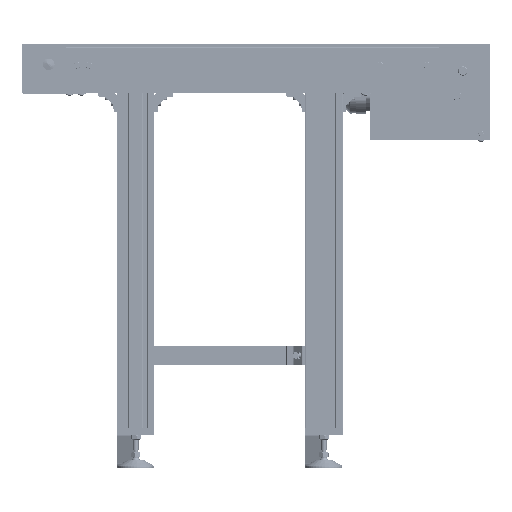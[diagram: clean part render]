
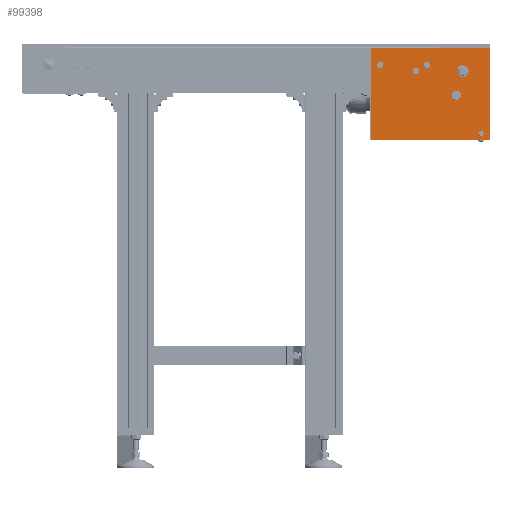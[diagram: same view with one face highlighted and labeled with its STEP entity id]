
A CAD part, front view. The second image highlights one B-rep face of the part: STEP entity #99398.
In plain terms, the highlighted planar face has unit normal (0, -1, 0).
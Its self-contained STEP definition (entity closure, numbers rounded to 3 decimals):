
#2491=FACE_BOUND('',#18529,.T.);
#2492=FACE_BOUND('',#18530,.T.);
#2493=FACE_BOUND('',#18531,.T.);
#2494=FACE_BOUND('',#18532,.T.);
#2495=FACE_BOUND('',#18533,.T.);
#2496=FACE_BOUND('',#18534,.T.);
#7140=CIRCLE('',#107482,10.);
#7170=CIRCLE('',#107549,6.5);
#7206=CIRCLE('',#107638,5.);
#7275=CIRCLE('',#107788,10.);
#7283=CIRCLE('',#107812,6.5);
#7284=CIRCLE('',#107813,6.5);
#12380=FACE_OUTER_BOUND('',#18528,.T.);
#18528=EDGE_LOOP('',(#82101,#82102,#82103,#82104));
#18529=EDGE_LOOP('',(#82105));
#18530=EDGE_LOOP('',(#82106));
#18531=EDGE_LOOP('',(#82107));
#18532=EDGE_LOOP('',(#82108));
#18533=EDGE_LOOP('',(#82109));
#18534=EDGE_LOOP('',(#82110));
#27417=LINE('',#163904,#36121);
#27431=LINE('',#164015,#36135);
#27432=LINE('',#164017,#36136);
#27433=LINE('',#164018,#36137);
#36121=VECTOR('',#132072,255.);
#36135=VECTOR('',#132156,195.);
#36136=VECTOR('',#132157,195.);
#36137=VECTOR('',#132158,255.);
#44500=VERTEX_POINT('',#163067);
#44527=VERTEX_POINT('',#163164);
#44612=VERTEX_POINT('',#163472);
#44745=VERTEX_POINT('',#163901);
#44746=VERTEX_POINT('',#163903);
#44752=VERTEX_POINT('',#163922);
#44772=VERTEX_POINT('',#164014);
#44773=VERTEX_POINT('',#164016);
#44774=VERTEX_POINT('',#164019);
#44775=VERTEX_POINT('',#164021);
#57188=EDGE_CURVE('',#44500,#44500,#7140,.T.);
#57221=EDGE_CURVE('',#44527,#44527,#7170,.T.);
#57343=EDGE_CURVE('',#44612,#44612,#7206,.T.);
#57541=EDGE_CURVE('',#44746,#44745,#27417,.T.);
#57548=EDGE_CURVE('',#44752,#44752,#7275,.T.);
#57580=EDGE_CURVE('',#44772,#44746,#27431,.T.);
#57581=EDGE_CURVE('',#44745,#44773,#27432,.T.);
#57582=EDGE_CURVE('',#44773,#44772,#27433,.T.);
#57583=EDGE_CURVE('',#44774,#44774,#7283,.T.);
#57584=EDGE_CURVE('',#44775,#44775,#7284,.T.);
#82101=ORIENTED_EDGE('',*,*,#57580,.T.);
#82102=ORIENTED_EDGE('',*,*,#57541,.T.);
#82103=ORIENTED_EDGE('',*,*,#57581,.T.);
#82104=ORIENTED_EDGE('',*,*,#57582,.T.);
#82105=ORIENTED_EDGE('',*,*,#57188,.T.);
#82106=ORIENTED_EDGE('',*,*,#57221,.T.);
#82107=ORIENTED_EDGE('',*,*,#57343,.T.);
#82108=ORIENTED_EDGE('',*,*,#57548,.T.);
#82109=ORIENTED_EDGE('',*,*,#57583,.T.);
#82110=ORIENTED_EDGE('',*,*,#57584,.T.);
#89299=PLANE('',#107811);
#99398=ADVANCED_FACE('',(#12380,#2491,#2492,#2493,#2494,#2495,#2496),#89299,
 .T.);
#107482=AXIS2_PLACEMENT_3D('',#163068,#131295,#131296);
#107549=AXIS2_PLACEMENT_3D('',#163165,#131432,#131433);
#107638=AXIS2_PLACEMENT_3D('',#163473,#131672,#131673);
#107788=AXIS2_PLACEMENT_3D('',#163923,#132096,#132097);
#107811=AXIS2_PLACEMENT_3D('',#164013,#132154,#132155);
#107812=AXIS2_PLACEMENT_3D('',#164020,#132159,#132160);
#107813=AXIS2_PLACEMENT_3D('',#164022,#132161,#132162);
#131295=DIRECTION('center_axis',(0.,1.,0.));
#131296=DIRECTION('ref_axis',(-0.747,0.,0.665));
#131432=DIRECTION('center_axis',(0.,1.,0.));
#131433=DIRECTION('ref_axis',(-1.,0.,0.));
#131672=DIRECTION('center_axis',(0.,1.,0.));
#131673=DIRECTION('ref_axis',(-1.,0.,0.));
#132072=DIRECTION('',(-1.,0.,0.));
#132096=DIRECTION('center_axis',(0.,1.,0.));
#132097=DIRECTION('ref_axis',(-0.369,0.,0.929));
#132154=DIRECTION('center_axis',(0.,-1.,0.));
#132155=DIRECTION('ref_axis',(1.,0.,0.));
#132156=DIRECTION('',(0.,0.,1.));
#132157=DIRECTION('',(0.,0.,-1.));
#132158=DIRECTION('',(1.,0.,0.));
#132159=DIRECTION('center_axis',(0.,1.,0.));
#132160=DIRECTION('ref_axis',(-1.,0.,0.));
#132161=DIRECTION('center_axis',(0.,1.,0.));
#132162=DIRECTION('ref_axis',(-1.,0.,0.));
#163067=CARTESIAN_POINT('',(949.467,-135.7,41.228));
#163068=CARTESIAN_POINT('Origin',(942.,-135.7,47.88));
#163164=CARTESIAN_POINT('',(835.5,-135.7,47.88));
#163165=CARTESIAN_POINT('Origin',(842.,-135.7,47.88));
#163472=CARTESIAN_POINT('',(976.,-135.7,-86.05));
#163473=CARTESIAN_POINT('Origin',(981.,-135.7,-86.05));
#163901=CARTESIAN_POINT('',(745.,-135.7,96.45));
#163903=CARTESIAN_POINT('',(1000.,-135.7,96.45));
#163904=CARTESIAN_POINT('',(872.5,-135.7,96.45));
#163922=CARTESIAN_POINT('',(924.31,-135.7,5.174));
#163923=CARTESIAN_POINT('Origin',(928.,-135.7,-4.12));
#164013=CARTESIAN_POINT('Origin',(872.5,-135.7,-1.05));
#164014=CARTESIAN_POINT('',(1000.,-135.7,-98.55));
#164015=CARTESIAN_POINT('',(1000.,-135.7,-1.05));
#164016=CARTESIAN_POINT('',(745.,-135.7,-98.55));
#164017=CARTESIAN_POINT('',(745.,-135.7,-1.05));
#164018=CARTESIAN_POINT('',(872.5,-135.7,-98.55));
#164019=CARTESIAN_POINT('',(758.5,-135.7,59.975));
#164020=CARTESIAN_POINT('Origin',(765.,-135.7,59.975));
#164021=CARTESIAN_POINT('',(858.5,-135.7,59.975));
#164022=CARTESIAN_POINT('Origin',(865.,-135.7,59.975));
